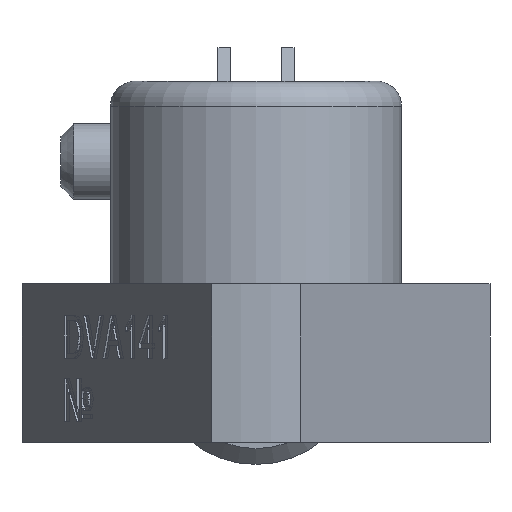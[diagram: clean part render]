
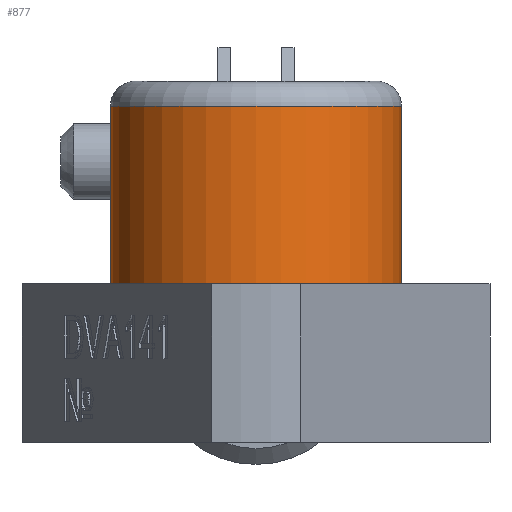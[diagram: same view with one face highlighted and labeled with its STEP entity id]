
A CAD part, front view. The second image highlights one B-rep face of the part: STEP entity #877.
In plain terms, the highlighted cylindrical face has radius 11.5 mm (diameter 23 mm), a full revolution.
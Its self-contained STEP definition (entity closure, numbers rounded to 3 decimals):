
#877=ADVANCED_FACE('',(#13449,#13451),#13453,.T.);
#13449=FACE_BOUND('',#13450,.T.);
#13450=EDGE_LOOP('',(#16374,#16375));
#13451=FACE_OUTER_BOUND('',#13452,.T.);
#13452=EDGE_LOOP('',(#16376));
#13453=CYLINDRICAL_SURFACE('',#13454,11.5);
#13454=AXIS2_PLACEMENT_3D('',#13455,#13456,#13457);
#13455=CARTESIAN_POINT('',(0.,0.,12.5));
#13456=DIRECTION('',(0.,0.,-1.));
#13457=DIRECTION('',(-1.,0.,0.));
#16374=ORIENTED_EDGE('',*,*,#18115,.T.);
#16375=ORIENTED_EDGE('',*,*,#18116,.T.);
#16376=ORIENTED_EDGE('',*,*,#17946,.F.);
#17946=EDGE_CURVE('',#19041,#19041,#19042,.T.);
#18115=EDGE_CURVE('',#19368,#19369,#19370,.T.);
#18116=EDGE_CURVE('',#19369,#19368,#19371,.T.);
#19041=VERTEX_POINT('',#25825);
#19042=CIRCLE('',#25826,11.5);
#19368=VERTEX_POINT('',#29632);
#19369=VERTEX_POINT('',#29633);
#19370=CIRCLE('',#29634,11.5);
#19371=CIRCLE('',#29638,11.5);
#25825=CARTESIAN_POINT('',(-11.5,0.,12.5));
#25826=AXIS2_PLACEMENT_3D('',#25827,#25828,#25829);
#25827=CARTESIAN_POINT('',(0.,0.,12.5));
#25828=DIRECTION('',(0.,0.,-1.));
#25829=DIRECTION('',(-1.,0.,0.));
#29632=CARTESIAN_POINT('',(0.,-11.5,26.5));
#29633=CARTESIAN_POINT('',(-11.5,0.,26.5));
#29634=AXIS2_PLACEMENT_3D('',#29635,#29636,#29637);
#29635=CARTESIAN_POINT('',(0.,0.,26.5));
#29636=DIRECTION('',(0.,0.,-1.));
#29637=DIRECTION('',(0.,-1.,0.));
#29638=AXIS2_PLACEMENT_3D('',#29639,#29640,#29641);
#29639=CARTESIAN_POINT('',(0.,0.,26.5));
#29640=DIRECTION('',(0.,0.,-1.));
#29641=DIRECTION('',(-1.,0.,0.));
